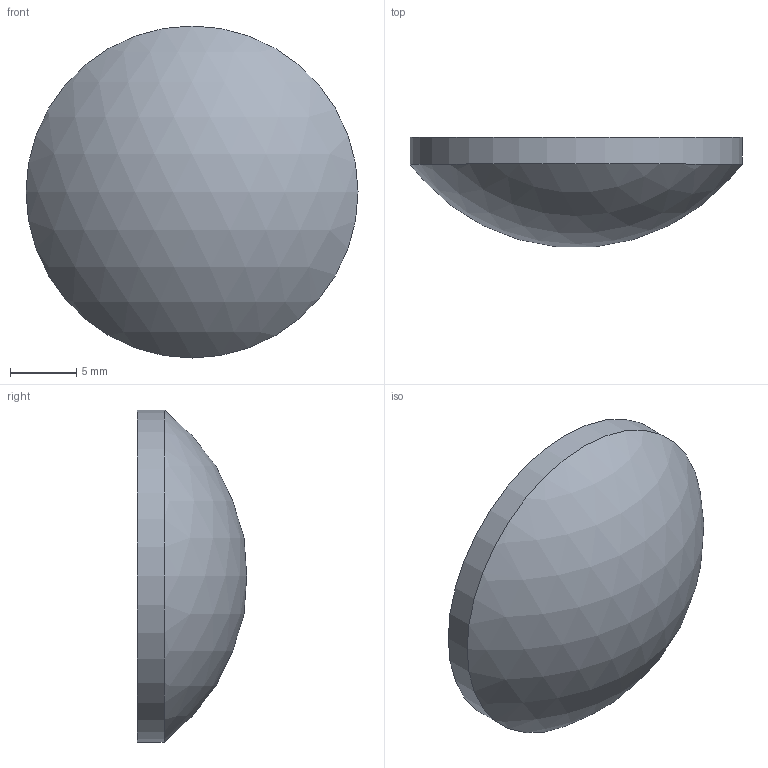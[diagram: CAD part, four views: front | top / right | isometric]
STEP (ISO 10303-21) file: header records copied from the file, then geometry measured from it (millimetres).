
FILE_DESCRIPTION((''),'2;1');
FILE_NAME('Y:\メカ関係\2能登便\素子ﾓﾃﾞﾙ（角屋さま野中さま⇒川島）\5月分\1_球面平凸レンズ-BK7\SLB-P\φ25\SLB-25-30P\SLB-25-30P.stp','2009-05-13T11:44:01',('usernoto011'),(''),'Autodesk Inventor 2008','Autodesk Inventor 2008','');
FILE_SCHEMA(('AUTOMOTIVE_DESIGN { 1 0 10303 214 1 1 1 1 }'));
Length unit declared in the file: millimetre
Products named in the file (1): SLB-25-30P
Bounding box: 25 x 8.23 x 25 mm (x, y, z)
Volume: 2661.3 mm3; surface area: 1264 mm2
Topology: 1 solids, 1 shells, 3 faces, 3 edges, 2 vertices
Faces by surface type: sphere 1, cylinder 1, plane 1
Full cylindrical faces by diameter (mm): 25 x1
Entity records: 80 total; most frequent: DIRECTION 12, CARTESIAN_POINT 8, AXIS2_PLACEMENT_3D 6, ORIENTED_EDGE 4, EDGE_LOOP 4, FACE_OUTER_BOUND 3, ADVANCED_FACE 3, DIMENSIONAL_EXPONENTS 2
